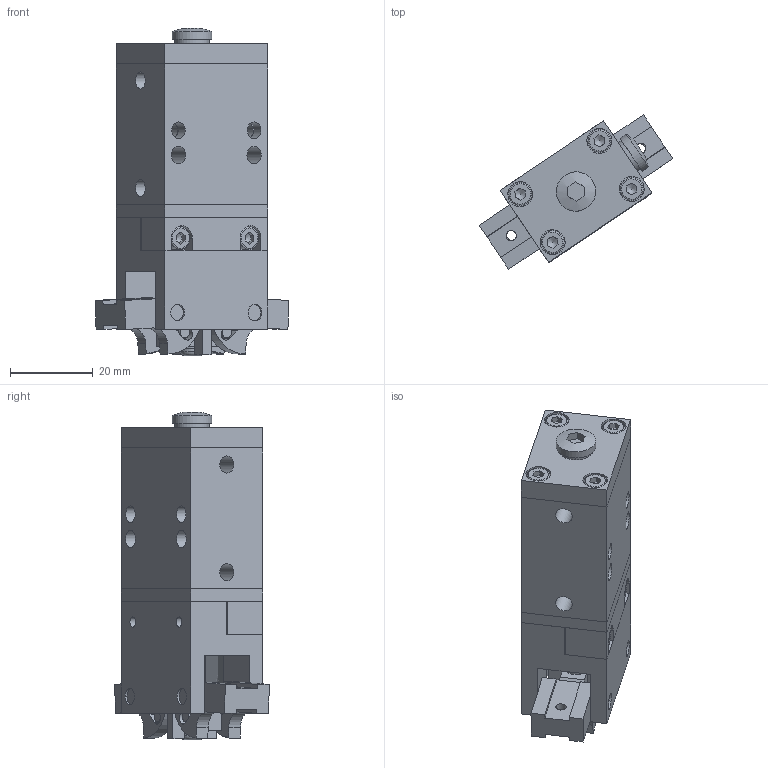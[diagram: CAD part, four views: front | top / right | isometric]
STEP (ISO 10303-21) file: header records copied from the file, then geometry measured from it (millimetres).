
FILE_DESCRIPTION((''),'2;1');
FILE_NAME('C:\Test\stp\3000005-2.stp','2006-04-11T12:58:03',('is'),(''),'Autodesk Inventor 10','Autodesk Inventor 10','');
FILE_SCHEMA(('AUTOMOTIVE_DESIGN { 1 0 10303 214 1 1 1 1 }'));
Length unit declared in the file: millimetre
Products named in the file (4): 3000005-2; 3000008-a; 3000008-b; 3000006-2
Assembly tree (3 placements, depth 2):
  3000005-2
    3000008-a
    3000008-b
    3000006-2
Bounding box: 46.79 x 37.29 x 78.95 mm (x, y, z)
Volume: 38250.1 mm3; surface area: 22662 mm2
Topology: 3 solids, 20 shells, 528 faces, 1278 edges, 822 vertices
Faces by surface type: plane 293, bspline 99, cylinder 78, cone 41, torus 14, sphere 3
Full cylindrical faces by diameter (mm): 2.95 x1, 3 x13, 4.9 x1, 5 x3, 5.2 x1, 5.5 x6, 5.7 x1, 6 x4, 7 x4, 7.1 x2, 8.3 x3, 8.75 x2, 9 x1, 9.5 x3, 9.6 x2, 12 x4, 15 x3, 17.6 x1
Entity records: 22158 total; most frequent: CARTESIAN_POINT 11065, DIRECTION 2224, ORIENTED_EDGE 2036, EDGE_CURVE 1018, AXIS2_PLACEMENT_3D 838, EDGE_LOOP 813, VERTEX_POINT 741, VECTOR 548
